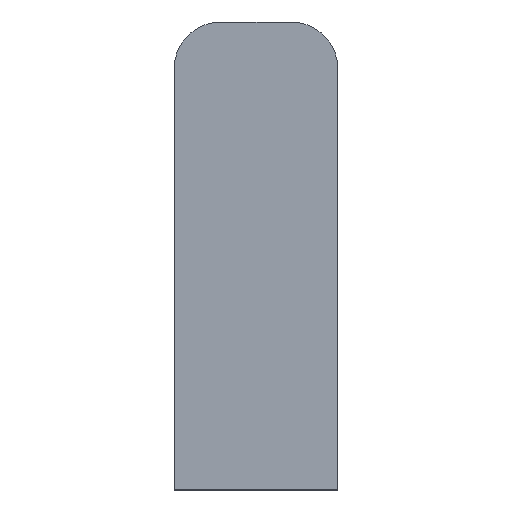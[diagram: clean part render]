
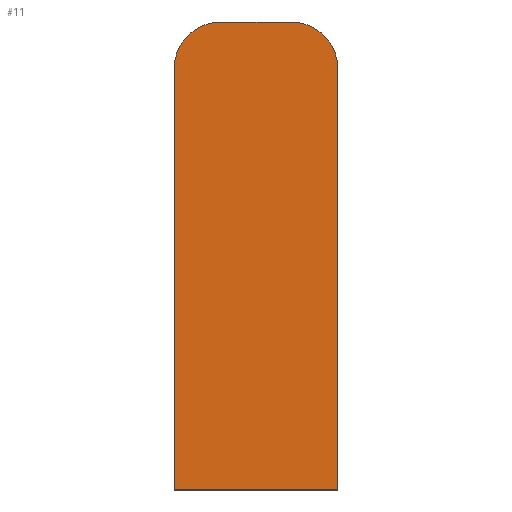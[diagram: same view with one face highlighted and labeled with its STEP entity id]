
A CAD part, front view. The second image highlights one B-rep face of the part: STEP entity #11.
In plain terms, the highlighted planar face has unit normal (0, -1, 0).
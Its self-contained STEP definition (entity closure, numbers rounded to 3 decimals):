
#11 = ADVANCED_FACE ( 'NONE', ( #435 ), #97, .F. ) ;
#16 = EDGE_CURVE ( 'NONE', #276, #271, #408, .T. ) ;
#25 = AXIS2_PLACEMENT_3D ( 'NONE', #186, #209, #210 ) ;
#29 = EDGE_CURVE ( 'NONE', #277, #282, #398, .T. ) ;
#44 = EDGE_CURVE ( 'NONE', #270, #277, #380, .T. ) ;
#65 = EDGE_CURVE ( 'NONE', #282, #286, #374, .T. ) ;
#72 = EDGE_CURVE ( 'NONE', #286, #276, #379, .T. ) ;
#75 = AXIS2_PLACEMENT_3D ( 'NONE', #136, #152, #153 ) ;
#81 = EDGE_CURVE ( 'NONE', #271, #270, #432, .T. ) ;
#83 = AXIS2_PLACEMENT_3D ( 'NONE', #92, #121, #122 ) ;
#92 = CARTESIAN_POINT ( 'NONE',  ( 0., 0., -1.5 ) ) ;
#97 = PLANE ( 'NONE',  #83 ) ;
#121 = DIRECTION ( 'NONE',  ( 0., 1., 0. ) ) ;
#122 = DIRECTION ( 'NONE',  ( -1., 0., 0. ) ) ;
#132 = CARTESIAN_POINT ( 'NONE',  ( 5.25, 0., -16.5 ) ) ;
#133 = DIRECTION ( 'NONE',  ( 0., 0., 1. ) ) ;
#136 = CARTESIAN_POINT ( 'NONE',  ( -2.25, 0., 10.5 ) ) ;
#152 = DIRECTION ( 'NONE',  ( 0., -1., 0. ) ) ;
#153 = DIRECTION ( 'NONE',  ( -1., 0., 0. ) ) ;
#163 = CARTESIAN_POINT ( 'NONE',  ( 2.25, 0., 13.5 ) ) ;
#167 = DIRECTION ( 'NONE',  ( -1., 0., 0. ) ) ;
#182 = CARTESIAN_POINT ( 'NONE',  ( -5.25, 0., -16.5 ) ) ;
#186 = CARTESIAN_POINT ( 'NONE',  ( 2.25, 0., 10.5 ) ) ;
#190 = DIRECTION ( 'NONE',  ( 0., 0., -1. ) ) ;
#198 = CARTESIAN_POINT ( 'NONE',  ( 5.25, 0., -16.5 ) ) ;
#199 = DIRECTION ( 'NONE',  ( 1., 0., 0. ) ) ;
#209 = DIRECTION ( 'NONE',  ( 0., -1., 0. ) ) ;
#210 = DIRECTION ( 'NONE',  ( -1., 0., 0. ) ) ;
#220 = CARTESIAN_POINT ( 'NONE',  ( 2.25, 0., 13.5 ) ) ;
#221 = CARTESIAN_POINT ( 'NONE',  ( 5.25, 0., 10.5 ) ) ;
#226 = CARTESIAN_POINT ( 'NONE',  ( 5.25, 0., -16.5 ) ) ;
#227 = CARTESIAN_POINT ( 'NONE',  ( -2.25, 0., 13.5 ) ) ;
#230 = CARTESIAN_POINT ( 'NONE',  ( -5.25, 0., 10.5 ) ) ;
#233 = CARTESIAN_POINT ( 'NONE',  ( -5.25, 0., -16.5 ) ) ;
#270 = VERTEX_POINT ( 'NONE', #220 ) ;
#271 = VERTEX_POINT ( 'NONE', #221 ) ;
#276 = VERTEX_POINT ( 'NONE', #226 ) ;
#277 = VERTEX_POINT ( 'NONE', #227 ) ;
#282 = VERTEX_POINT ( 'NONE', #230 ) ;
#286 = VERTEX_POINT ( 'NONE', #233 ) ;
#301 = ORIENTED_EDGE ( 'NONE', *, *, #44, .T. ) ;
#304 = ORIENTED_EDGE ( 'NONE', *, *, #29, .T. ) ;
#306 = ORIENTED_EDGE ( 'NONE', *, *, #81, .T. ) ;
#307 = ORIENTED_EDGE ( 'NONE', *, *, #16, .T. ) ;
#354 = EDGE_LOOP ( 'NONE', ( #307, #306, #301, #304, #368, #364 ) ) ;
#364 = ORIENTED_EDGE ( 'NONE', *, *, #72, .T. ) ;
#368 = ORIENTED_EDGE ( 'NONE', *, *, #65, .T. ) ;
#374 = LINE ( 'NONE', #182, #415 ) ;
#375 = VECTOR ( 'NONE', #167, 1000. ) ;
#379 = LINE ( 'NONE', #198, #383 ) ;
#380 = LINE ( 'NONE', #163, #375 ) ;
#383 = VECTOR ( 'NONE', #199, 1000. ) ;
#390 = VECTOR ( 'NONE', #133, 1000. ) ;
#398 = CIRCLE ( 'NONE', #75, 3. ) ;
#408 = LINE ( 'NONE', #132, #390 ) ;
#415 = VECTOR ( 'NONE', #190, 1000. ) ;
#432 = CIRCLE ( 'NONE', #25, 3. ) ;
#435 = FACE_OUTER_BOUND ( 'NONE', #354, .T. ) ;
